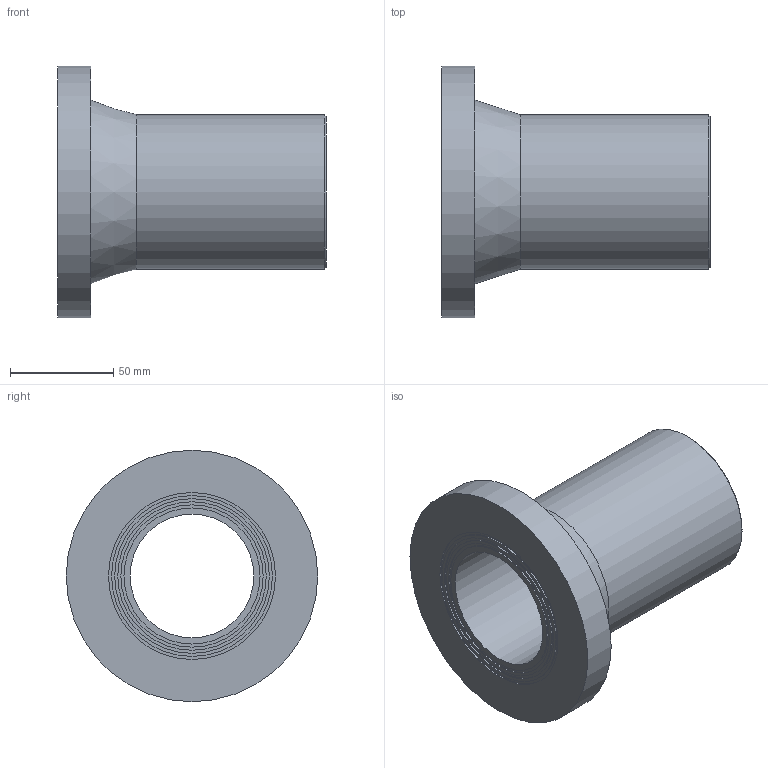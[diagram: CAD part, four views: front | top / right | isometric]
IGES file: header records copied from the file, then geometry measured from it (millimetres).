
Global section: file name: 490207075.ipt; native system: Autodesk Inventor 2015; preprocessor: unknown; author: Кирилл,,11,0; organization: 20170718.095537; date: 20190331.185816; units: millimetre
Bounding box: 130 x 122 x 122 mm (x, y, z)
Volume: 341534.5 mm3; surface area: 75117.6 mm2
Topology: 1 solids, 1 shells, 20 faces, 33 edges, 22 vertices
Faces by surface type: plane 9, cylinder 5, revolution 4, cone 2
Full cylindrical faces by diameter (mm): 66 x1, 72 x1, 75 x1, 78 x1, 122 x1
